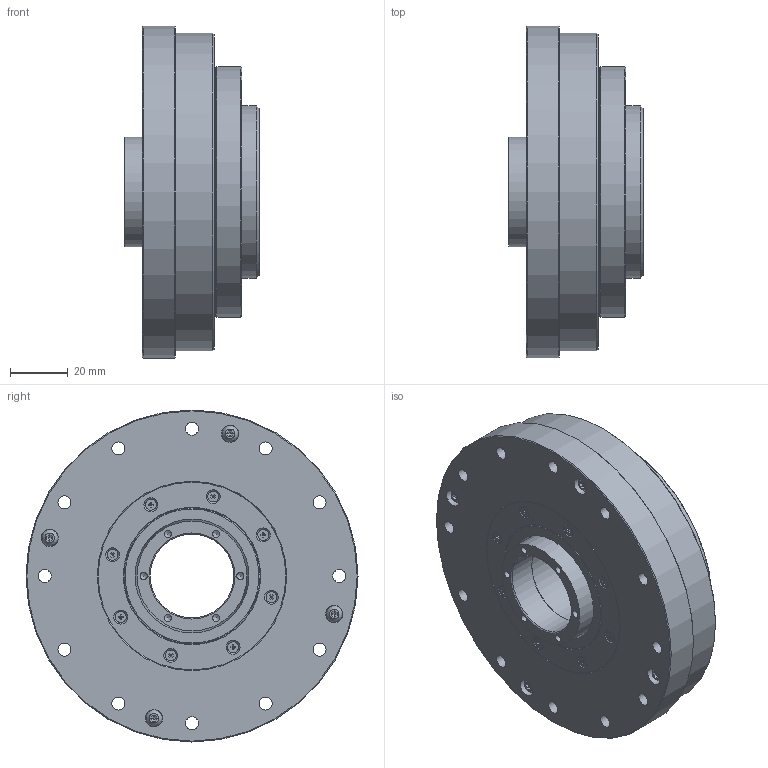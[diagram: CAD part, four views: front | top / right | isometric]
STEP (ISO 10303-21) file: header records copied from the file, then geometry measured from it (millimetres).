
FILE_DESCRIPTION (( 'STEP AP203' ), '1' );
FILE_NAME ('LHD-25-80,100,120, -C(CL)-III.STEP', '2025-01-08T10:31:42', ( '' ), ( '' ), 'SwSTEP 2.0', 'SolidWorks 2023', '' );
FILE_SCHEMA (( 'CONFIG_CONTROL_DESIGN' ));
Length unit declared in the file: millimetre
Products named in the file (1): LHD-25-80,100,120, -C(CL)-III
Bounding box: 46.5 x 115 x 115 mm (x, y, z)
Volume: 231600.7 mm3; surface area: 176649.2 mm2
Topology: 69 solids, 69 shells, 1556 faces, 4193 edges, 2646 vertices
Faces by surface type: plane 636, bspline 387, cylinder 351, cone 182
Full cylindrical faces by diameter (mm): 1.6 x8, 2 x8, 2.2 x8, 2.5 x26, 3 x20, 3.3 x12, 3.4 x6, 3.5 x18, 3.8 x8, 4.5 x60, 5.5 x12, 6 x14, 6.5 x6, 29 x2, 29.5 x1, 35.5 x2, 37.8 x1, 38 x2, 39.5 x1, 40 x5, 41 x2, 42.4 x1, 42.8 x1, 44 x4, 44.2 x1, 44.6 x4, 45.22 x1, 46.4 x1, 47 x5, 47.3 x1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
Entity records: 58933 total; most frequent: CARTESIAN_POINT 25832, ORIENTED_EDGE 6634, DIRECTION 6110, EDGE_CURVE 3317, AXIS2_PLACEMENT_3D 2625, EDGE_LOOP 2494, VERTEX_POINT 2401, FACE_OUTER_BOUND 2006
